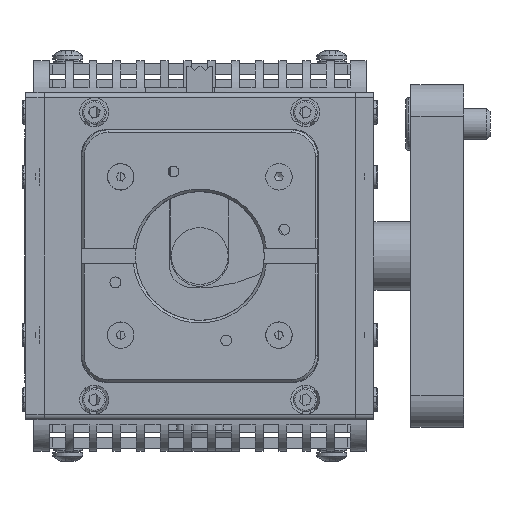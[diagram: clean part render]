
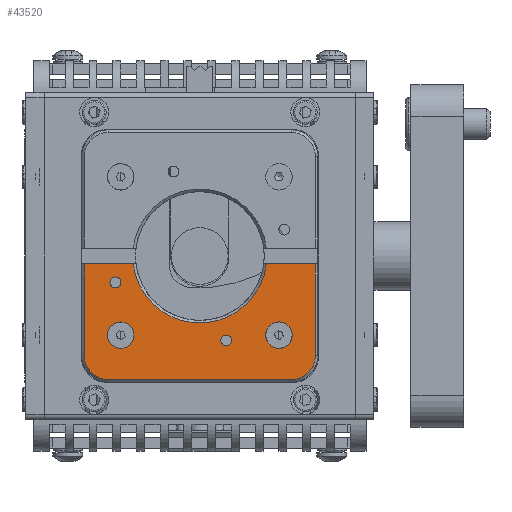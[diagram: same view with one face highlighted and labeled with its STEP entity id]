
A CAD part, left-side view. The second image highlights one B-rep face of the part: STEP entity #43520.
In plain terms, the highlighted planar face has unit normal (-1, 0, 0).
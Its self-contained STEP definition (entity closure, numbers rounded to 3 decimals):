
#1908 = VERTEX_POINT ( 'NONE', #12555 ) ;
#1994 = VECTOR ( 'NONE', #5358, 1000. ) ;
#2687 = LINE ( 'NONE', #11105, #7197 ) ;
#3075 = ORIENTED_EDGE ( 'NONE', *, *, #30621, .T. ) ;
#4091 = ORIENTED_EDGE ( 'NONE', *, *, #28967, .T. ) ;
#5025 = DIRECTION ( 'NONE',  ( 1., 0., 0. ) ) ;
#5358 = DIRECTION ( 'NONE',  ( 0., 0., 1. ) ) ;
#5527 = EDGE_CURVE ( 'NONE', #27954, #7620, #17678, .T. ) ;
#5639 = EDGE_LOOP ( 'NONE', ( #34303 ) ) ;
#5908 = CARTESIAN_POINT ( 'NONE',  ( -85.5, -6.025, -16. ) ) ;
#6336 = CARTESIAN_POINT ( 'NONE',  ( -85.5, -17.4, -18.9 ) ) ;
#6816 = AXIS2_PLACEMENT_3D ( 'NONE', #47053, #51115, #10103 ) ;
#6969 = CARTESIAN_POINT ( 'NONE',  ( -85.5, 12.5, -15. ) ) ;
#7197 = VECTOR ( 'NONE', #19524, 1000. ) ;
#7620 = VERTEX_POINT ( 'NONE', #50354 ) ;
#7749 = CARTESIAN_POINT ( 'NONE',  ( -85.5, -15., -15. ) ) ;
#8065 = ORIENTED_EDGE ( 'NONE', *, *, #32170, .T. ) ;
#8480 = CARTESIAN_POINT ( 'NONE',  ( -85.5, -5., -16. ) ) ;
#8904 = EDGE_LOOP ( 'NONE', ( #41636 ) ) ;
#9407 = CARTESIAN_POINT ( 'NONE',  ( -85.5, 21.9, 18.9 ) ) ;
#9578 = CARTESIAN_POINT ( 'NONE',  ( -85.5, 14.975, -5. ) ) ;
#9931 = DIRECTION ( 'NONE',  ( 0., 1., 0. ) ) ;
#10073 = CIRCLE ( 'NONE', #28239, 4.5 ) ;
#10103 = DIRECTION ( 'NONE',  ( 0., 1., 0. ) ) ;
#10346 = DIRECTION ( 'NONE',  ( 0., -1., 0. ) ) ;
#11105 = CARTESIAN_POINT ( 'NONE',  ( -85.5, -22.4, -1.5 ) ) ;
#11217 = EDGE_CURVE ( 'NONE', #18933, #18933, #48646, .T. ) ;
#11970 = CARTESIAN_POINT ( 'NONE',  ( -85.5, 17.4, -23.4 ) ) ;
#12555 = CARTESIAN_POINT ( 'NONE',  ( -85.5, -17.4, -23.4 ) ) ;
#14215 = ORIENTED_EDGE ( 'NONE', *, *, #5527, .F. ) ;
#15141 = EDGE_CURVE ( 'NONE', #24319, #33500, #2687, .T. ) ;
#15377 = EDGE_CURVE ( 'NONE', #37689, #33500, #30306, .T. ) ;
#16158 = CARTESIAN_POINT ( 'NONE',  ( -85.5, -21.9, -18.9 ) ) ;
#16517 = CARTESIAN_POINT ( 'NONE',  ( -85.5, 21.9, -1.5 ) ) ;
#16790 = VERTEX_POINT ( 'NONE', #52460 ) ;
#16858 = DIRECTION ( 'NONE',  ( 0., -1., 0. ) ) ;
#17437 = FACE_BOUND ( 'NONE', #5639, .T. ) ;
#17659 = DIRECTION ( 'NONE',  ( 0., -1., 0. ) ) ;
#17678 = LINE ( 'NONE', #47030, #34925 ) ;
#18530 = FACE_BOUND ( 'NONE', #36580, .T. ) ;
#18933 = VERTEX_POINT ( 'NONE', #6969 ) ;
#19147 = CIRCLE ( 'NONE', #49494, 2.5 ) ;
#19524 = DIRECTION ( 'NONE',  ( 0., -1., 0. ) ) ;
#21649 = VERTEX_POINT ( 'NONE', #5908 ) ;
#21899 = DIRECTION ( 'NONE',  ( 0., 0., -1. ) ) ;
#22054 = FACE_BOUND ( 'NONE', #25937, .T. ) ;
#22070 = ORIENTED_EDGE ( 'NONE', *, *, #15141, .F. ) ;
#22634 = DIRECTION ( 'NONE',  ( -1., 0., 0. ) ) ;
#22694 = DIRECTION ( 'NONE',  ( -1., 0., 0. ) ) ;
#24108 = EDGE_CURVE ( 'NONE', #27954, #48341, #46628, .T. ) ;
#24319 = VERTEX_POINT ( 'NONE', #37833 ) ;
#24402 = CIRCLE ( 'NONE', #40852, 12.7 ) ;
#24825 = ORIENTED_EDGE ( 'NONE', *, *, #45817, .F. ) ;
#25895 = AXIS2_PLACEMENT_3D ( 'NONE', #30393, #34761, #17659 ) ;
#25937 = EDGE_LOOP ( 'NONE', ( #24825 ) ) ;
#26956 = EDGE_CURVE ( 'NONE', #16790, #16790, #19147, .T. ) ;
#27954 = VERTEX_POINT ( 'NONE', #16517 ) ;
#28239 = AXIS2_PLACEMENT_3D ( 'NONE', #6336, #22634, #34846 ) ;
#28721 = CARTESIAN_POINT ( 'NONE',  ( -85.5, 17.4, -23.4 ) ) ;
#28957 = AXIS2_PLACEMENT_3D ( 'NONE', #43588, #22694, #9931 ) ;
#28967 = EDGE_CURVE ( 'NONE', #24319, #7620, #24402, .T. ) ;
#29686 = EDGE_CURVE ( 'NONE', #21649, #21649, #41032, .T. ) ;
#30180 = VECTOR ( 'NONE', #16858, 1000. ) ;
#30306 = LINE ( 'NONE', #34119, #1994 ) ;
#30393 = CARTESIAN_POINT ( 'NONE',  ( -85.5, 16., -5. ) ) ;
#30456 = VERTEX_POINT ( 'NONE', #9578 ) ;
#30621 = EDGE_CURVE ( 'NONE', #48341, #36700, #35045, .T. ) ;
#31217 = CARTESIAN_POINT ( 'NONE',  ( -85.5, -21.9, -1.5 ) ) ;
#32152 = AXIS2_PLACEMENT_3D ( 'NONE', #45429, #36441, #53306 ) ;
#32170 = EDGE_CURVE ( 'NONE', #1908, #37689, #10073, .T. ) ;
#33500 = VERTEX_POINT ( 'NONE', #31217 ) ;
#34119 = CARTESIAN_POINT ( 'NONE',  ( -85.5, -21.9, 18.9 ) ) ;
#34303 = ORIENTED_EDGE ( 'NONE', *, *, #11217, .F. ) ;
#34761 = DIRECTION ( 'NONE',  ( -1., 0., 0. ) ) ;
#34846 = DIRECTION ( 'NONE',  ( 0., 1., 0. ) ) ;
#34925 = VECTOR ( 'NONE', #10346, 1000. ) ;
#35045 = CIRCLE ( 'NONE', #28957, 4.5 ) ;
#36441 = DIRECTION ( 'NONE',  ( -1., 0., 0. ) ) ;
#36580 = EDGE_LOOP ( 'NONE', ( #37278 ) ) ;
#36700 = VERTEX_POINT ( 'NONE', #28721 ) ;
#37025 = ORIENTED_EDGE ( 'NONE', *, *, #15377, .T. ) ;
#37278 = ORIENTED_EDGE ( 'NONE', *, *, #26956, .F. ) ;
#37689 = VERTEX_POINT ( 'NONE', #16158 ) ;
#37833 = CARTESIAN_POINT ( 'NONE',  ( -85.5, -12.611, -1.5 ) ) ;
#40051 = DIRECTION ( 'NONE',  ( -1., 0., 0. ) ) ;
#40133 = ORIENTED_EDGE ( 'NONE', *, *, #43895, .T. ) ;
#40614 = CIRCLE ( 'NONE', #25895, 1.025 ) ;
#40852 = AXIS2_PLACEMENT_3D ( 'NONE', #42748, #5025, #42204 ) ;
#41032 = CIRCLE ( 'NONE', #43651, 1.025 ) ;
#41110 = DIRECTION ( 'NONE',  ( -1., 0., 0. ) ) ;
#41543 = LINE ( 'NONE', #11970, #30180 ) ;
#41636 = ORIENTED_EDGE ( 'NONE', *, *, #29686, .F. ) ;
#41855 = DIRECTION ( 'NONE',  ( 0., -1., 0. ) ) ;
#42204 = DIRECTION ( 'NONE',  ( 0., 1., 0. ) ) ;
#42408 = FACE_BOUND ( 'NONE', #8904, .T. ) ;
#42748 = CARTESIAN_POINT ( 'NONE',  ( -85.5, 0., 0. ) ) ;
#43520 = ADVANCED_FACE ( 'NONE', ( #18530, #17437, #42408, #22054, #46250 ), #51644, .F. ) ;
#43588 = CARTESIAN_POINT ( 'NONE',  ( -85.5, 17.4, -18.9 ) ) ;
#43651 = AXIS2_PLACEMENT_3D ( 'NONE', #8480, #40051, #41855 ) ;
#43895 = EDGE_CURVE ( 'NONE', #36700, #1908, #41543, .T. ) ;
#45429 = CARTESIAN_POINT ( 'NONE',  ( -85.5, 15., -15. ) ) ;
#45817 = EDGE_CURVE ( 'NONE', #30456, #30456, #40614, .T. ) ;
#45832 = VECTOR ( 'NONE', #21899, 1000. ) ;
#46250 = FACE_OUTER_BOUND ( 'NONE', #49082, .T. ) ;
#46628 = LINE ( 'NONE', #9407, #45832 ) ;
#47030 = CARTESIAN_POINT ( 'NONE',  ( -85.5, -22.4, -1.5 ) ) ;
#47053 = CARTESIAN_POINT ( 'NONE',  ( -85.5, 17.4, 18.9 ) ) ;
#48341 = VERTEX_POINT ( 'NONE', #49443 ) ;
#48646 = CIRCLE ( 'NONE', #32152, 2.5 ) ;
#49082 = EDGE_LOOP ( 'NONE', ( #37025, #22070, #4091, #14215, #50986, #3075, #40133, #8065 ) ) ;
#49287 = DIRECTION ( 'NONE',  ( 0., -1., 0. ) ) ;
#49443 = CARTESIAN_POINT ( 'NONE',  ( -85.5, 21.9, -18.9 ) ) ;
#49494 = AXIS2_PLACEMENT_3D ( 'NONE', #7749, #41110, #49287 ) ;
#50354 = CARTESIAN_POINT ( 'NONE',  ( -85.5, 12.611, -1.5 ) ) ;
#50986 = ORIENTED_EDGE ( 'NONE', *, *, #24108, .T. ) ;
#51115 = DIRECTION ( 'NONE',  ( 1., 0., 0. ) ) ;
#51644 = PLANE ( 'NONE',  #6816 ) ;
#52460 = CARTESIAN_POINT ( 'NONE',  ( -85.5, -17.5, -15. ) ) ;
#53306 = DIRECTION ( 'NONE',  ( 0., -1., 0. ) ) ;
